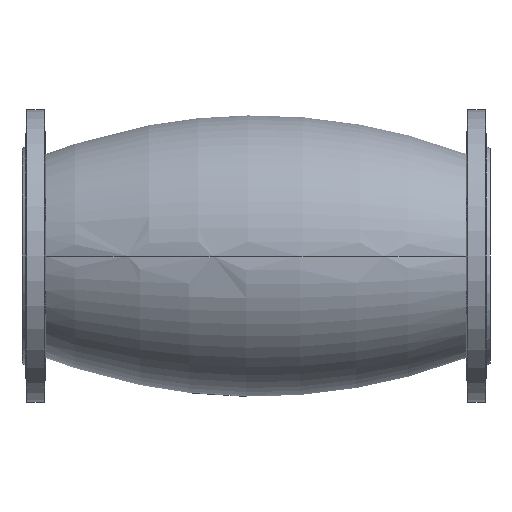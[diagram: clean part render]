
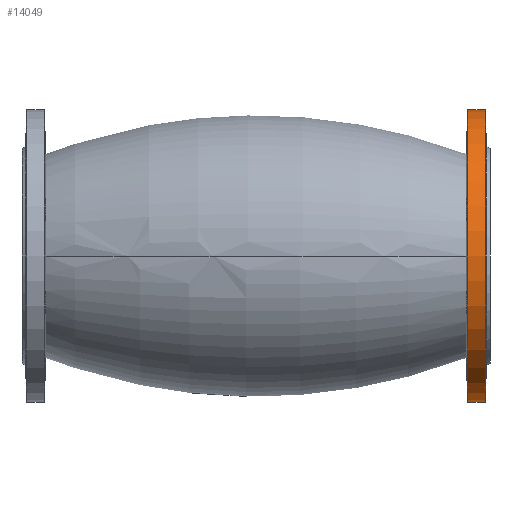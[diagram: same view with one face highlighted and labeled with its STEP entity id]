
A CAD part, front view. The second image highlights one B-rep face of the part: STEP entity #14049.
In plain terms, the highlighted cylindrical face has radius 125 mm (diameter 250 mm), a partial arc.
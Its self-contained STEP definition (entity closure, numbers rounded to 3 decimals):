
#122 = DIRECTION ( 'NONE',  ( 1., 0., 0. ) ) ;
#442 = VECTOR ( 'NONE', #9738, 1000. ) ;
#585 = LINE ( 'NONE', #10245, #12473 ) ;
#604 = CYLINDRICAL_SURFACE ( 'NONE', #9052, 125. ) ;
#1008 = DIRECTION ( 'NONE',  ( 1., 0., 0. ) ) ;
#1758 = CARTESIAN_POINT ( 'NONE',  ( 112.551, -36.83, 25.371 ) ) ;
#2335 = CARTESIAN_POINT ( 'NONE',  ( 97.643, -36.83, -224.629 ) ) ;
#2814 = VERTEX_POINT ( 'NONE', #8657 ) ;
#3187 = EDGE_CURVE ( 'NONE', #11443, #8580, #585, .T. ) ;
#3652 = ORIENTED_EDGE ( 'NONE', *, *, #16077, .T. ) ;
#3927 = VERTEX_POINT ( 'NONE', #2335 ) ;
#4024 = ORIENTED_EDGE ( 'NONE', *, *, #11571, .T. ) ;
#4401 = CARTESIAN_POINT ( 'NONE',  ( 97.643, -36.83, -99.629 ) ) ;
#4665 = AXIS2_PLACEMENT_3D ( 'NONE', #16367, #9332, #14982 ) ;
#5004 = EDGE_LOOP ( 'NONE', ( #14055, #4024, #3652, #7178 ) ) ;
#5108 = CARTESIAN_POINT ( 'NONE',  ( 116.643, -36.83, -99.629 ) ) ;
#5250 = CIRCLE ( 'NONE', #4665, 125. ) ;
#6909 = AXIS2_PLACEMENT_3D ( 'NONE', #4401, #122, #12831 ) ;
#7178 = ORIENTED_EDGE ( 'NONE', *, *, #3187, .F. ) ;
#7278 = EDGE_CURVE ( 'NONE', #11443, #3927, #14003, .T. ) ;
#7377 = DIRECTION ( 'NONE',  ( 1., 0., 0. ) ) ;
#8429 = CARTESIAN_POINT ( 'NONE',  ( 116.643, -36.83, -224.629 ) ) ;
#8580 = VERTEX_POINT ( 'NONE', #1758 ) ;
#8657 = CARTESIAN_POINT ( 'NONE',  ( 112.551, -36.83, -224.629 ) ) ;
#9052 = AXIS2_PLACEMENT_3D ( 'NONE', #5108, #1008, #17884 ) ;
#9332 = DIRECTION ( 'NONE',  ( -1., 0., 0. ) ) ;
#9738 = DIRECTION ( 'NONE',  ( 1., 0., 0. ) ) ;
#10245 = CARTESIAN_POINT ( 'NONE',  ( 116.643, -36.83, 25.371 ) ) ;
#11443 = VERTEX_POINT ( 'NONE', #12316 ) ;
#11571 = EDGE_CURVE ( 'NONE', #3927, #2814, #18152, .T. ) ;
#12316 = CARTESIAN_POINT ( 'NONE',  ( 97.643, -36.83, 25.371 ) ) ;
#12473 = VECTOR ( 'NONE', #7377, 1000. ) ;
#12831 = DIRECTION ( 'NONE',  ( 0., 0., -1. ) ) ;
#14003 = CIRCLE ( 'NONE', #6909, 125. ) ;
#14049 = ADVANCED_FACE ( 'NONE', ( #14975 ), #604, .T. ) ;
#14055 = ORIENTED_EDGE ( 'NONE', *, *, #7278, .T. ) ;
#14975 = FACE_OUTER_BOUND ( 'NONE', #5004, .T. ) ;
#14982 = DIRECTION ( 'NONE',  ( 0., 0., 1. ) ) ;
#16077 = EDGE_CURVE ( 'NONE', #2814, #8580, #5250, .T. ) ;
#16367 = CARTESIAN_POINT ( 'NONE',  ( 112.551, -36.83, -99.629 ) ) ;
#17884 = DIRECTION ( 'NONE',  ( 0., 0., 1. ) ) ;
#18152 = LINE ( 'NONE', #8429, #442 ) ;
